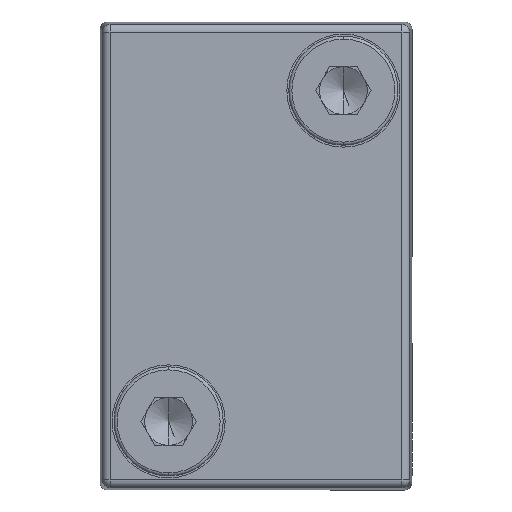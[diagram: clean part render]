
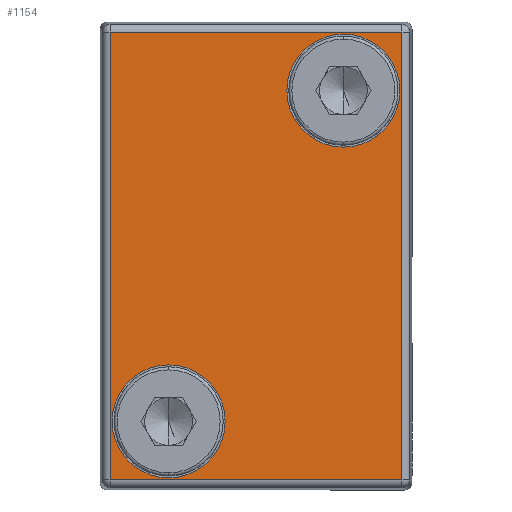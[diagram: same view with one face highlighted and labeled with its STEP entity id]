
A CAD part, front view. The second image highlights one B-rep face of the part: STEP entity #1154.
In plain terms, the highlighted planar face has unit normal (0, -1, 0).
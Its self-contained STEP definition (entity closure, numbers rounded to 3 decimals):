
#1080 = ORIENTED_EDGE ( 'NONE', *, *, #3167, .F. ) ;
#1081 = EDGE_LOOP ( 'NONE', ( #1082, #1083 ) ) ;
#1082 = ORIENTED_EDGE ( 'NONE', *, *, #1105, .F. ) ;
#1083 = ORIENTED_EDGE ( 'NONE', *, *, #3263, .F. ) ;
#1084 = EDGE_LOOP ( 'NONE', ( #1085, #1136, #1139, #1142 ) ) ;
#1085 = ORIENTED_EDGE ( 'NONE', *, *, #1133, .T. ) ;
#1088 = EDGE_CURVE ( 'NONE', #3168, #3165, #5452, .T. ) ;
#1105 = EDGE_CURVE ( 'NONE', #3259, #3258, #5483, .T. ) ;
#1133 = EDGE_CURVE ( 'NONE', #1134, #1135, #5553, .T. ) ;
#1134 = VERTEX_POINT ( 'NONE', #5549 ) ;
#1135 = VERTEX_POINT ( 'NONE', #5548 ) ;
#1136 = ORIENTED_EDGE ( 'NONE', *, *, #1137, .T. ) ;
#1137 = EDGE_CURVE ( 'NONE', #1135, #1138, #5547, .T. ) ;
#1138 = VERTEX_POINT ( 'NONE', #5543 ) ;
#1139 = ORIENTED_EDGE ( 'NONE', *, *, #1140, .T. ) ;
#1140 = EDGE_CURVE ( 'NONE', #1138, #1141, #5542, .T. ) ;
#1141 = VERTEX_POINT ( 'NONE', #5538 ) ;
#1142 = ORIENTED_EDGE ( 'NONE', *, *, #1143, .T. ) ;
#1143 = EDGE_CURVE ( 'NONE', #1141, #1134, #5537, .T. ) ;
#1154 = ADVANCED_FACE ( 'NONE', ( #5575, #5574, #5573 ), #5572, .F. ) ;
#1155 = EDGE_LOOP ( 'NONE', ( #1156, #1080 ) ) ;
#1156 = ORIENTED_EDGE ( 'NONE', *, *, #1088, .F. ) ;
#3165 = VERTEX_POINT ( 'NONE', #8847 ) ;
#3167 = EDGE_CURVE ( 'NONE', #3165, #3168, #8846, .T. ) ;
#3168 = VERTEX_POINT ( 'NONE', #8841 ) ;
#3258 = VERTEX_POINT ( 'NONE', #9045 ) ;
#3259 = VERTEX_POINT ( 'NONE', #9044 ) ;
#3263 = EDGE_CURVE ( 'NONE', #3258, #3259, #9039, .T. ) ;
#5444 = DIRECTION ( 'NONE',  ( 0., 0., -1. ) ) ;
#5445 = DIRECTION ( 'NONE',  ( 0., -1., 0. ) ) ;
#5446 = CARTESIAN_POINT ( 'NONE',  ( -5.6, -28.7, -10.6 ) ) ;
#5447 = AXIS2_PLACEMENT_3D ( 'NONE', #5446, #5445, #5444 ) ;
#5452 = CIRCLE ( 'NONE', #5447, 3.625 ) ;
#5475 = DIRECTION ( 'NONE',  ( 0., 0., -1. ) ) ;
#5476 = DIRECTION ( 'NONE',  ( 0., -1., 0. ) ) ;
#5477 = CARTESIAN_POINT ( 'NONE',  ( 5.6, -28.7, 10.6 ) ) ;
#5478 = AXIS2_PLACEMENT_3D ( 'NONE', #5477, #5476, #5475 ) ;
#5483 = CIRCLE ( 'NONE', #5478, 3.625 ) ;
#5537 = LINE ( 'NONE', #5601, #5600 ) ;
#5538 = CARTESIAN_POINT ( 'NONE',  ( -9.359, -28.7, 14.359 ) ) ;
#5539 = DIRECTION ( 'NONE',  ( -1., 0., 0. ) ) ;
#5540 = VECTOR ( 'NONE', #5539, 1000. ) ;
#5541 = CARTESIAN_POINT ( 'NONE',  ( 10., -28.7, 14.359 ) ) ;
#5542 = LINE ( 'NONE', #5541, #5540 ) ;
#5543 = CARTESIAN_POINT ( 'NONE',  ( 9.359, -28.7, 14.359 ) ) ;
#5544 = DIRECTION ( 'NONE',  ( 0., 0., 1. ) ) ;
#5545 = VECTOR ( 'NONE', #5544, 1000. ) ;
#5546 = CARTESIAN_POINT ( 'NONE',  ( 9.359, -28.7, 15. ) ) ;
#5547 = LINE ( 'NONE', #5546, #5545 ) ;
#5548 = CARTESIAN_POINT ( 'NONE',  ( 9.359, -28.7, -14.359 ) ) ;
#5549 = CARTESIAN_POINT ( 'NONE',  ( -9.359, -28.7, -14.359 ) ) ;
#5550 = DIRECTION ( 'NONE',  ( 1., 0., 0. ) ) ;
#5551 = VECTOR ( 'NONE', #5550, 1000. ) ;
#5552 = CARTESIAN_POINT ( 'NONE',  ( 10., -28.7, -14.359 ) ) ;
#5553 = LINE ( 'NONE', #5552, #5551 ) ;
#5568 = DIRECTION ( 'NONE',  ( 0., 0., 1. ) ) ;
#5569 = DIRECTION ( 'NONE',  ( 0., 1., 0. ) ) ;
#5570 = CARTESIAN_POINT ( 'NONE',  ( 10., -28.7, 15. ) ) ;
#5571 = AXIS2_PLACEMENT_3D ( 'NONE', #5570, #5569, #5568 ) ;
#5572 = PLANE ( 'NONE',  #5571 ) ;
#5573 = FACE_OUTER_BOUND ( 'NONE', #1084, .T. ) ;
#5574 = FACE_BOUND ( 'NONE', #1081, .T. ) ;
#5575 = FACE_BOUND ( 'NONE', #1155, .T. ) ;
#5599 = DIRECTION ( 'NONE',  ( 0., 0., -1. ) ) ;
#5600 = VECTOR ( 'NONE', #5599, 1000. ) ;
#5601 = CARTESIAN_POINT ( 'NONE',  ( -9.359, -28.7, 15. ) ) ;
#8841 = CARTESIAN_POINT ( 'NONE',  ( -5.6, -28.7, -14.225 ) ) ;
#8842 = DIRECTION ( 'NONE',  ( 0., 0., -1. ) ) ;
#8843 = DIRECTION ( 'NONE',  ( 0., -1., 0. ) ) ;
#8844 = CARTESIAN_POINT ( 'NONE',  ( -5.6, -28.7, -10.6 ) ) ;
#8845 = AXIS2_PLACEMENT_3D ( 'NONE', #8844, #8843, #8842 ) ;
#8846 = CIRCLE ( 'NONE', #8845, 3.625 ) ;
#8847 = CARTESIAN_POINT ( 'NONE',  ( -5.6, -28.7, -6.975 ) ) ;
#9035 = DIRECTION ( 'NONE',  ( 0., 0., -1. ) ) ;
#9036 = DIRECTION ( 'NONE',  ( 0., -1., 0. ) ) ;
#9037 = CARTESIAN_POINT ( 'NONE',  ( 5.6, -28.7, 10.6 ) ) ;
#9038 = AXIS2_PLACEMENT_3D ( 'NONE', #9037, #9036, #9035 ) ;
#9039 = CIRCLE ( 'NONE', #9038, 3.625 ) ;
#9044 = CARTESIAN_POINT ( 'NONE',  ( 5.6, -28.7, 6.975 ) ) ;
#9045 = CARTESIAN_POINT ( 'NONE',  ( 5.6, -28.7, 14.225 ) ) ;
